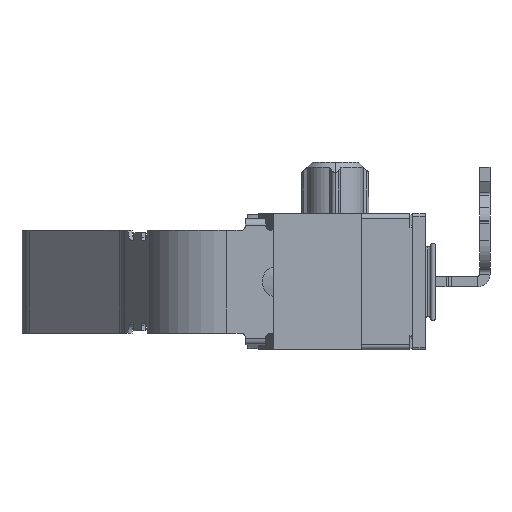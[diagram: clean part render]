
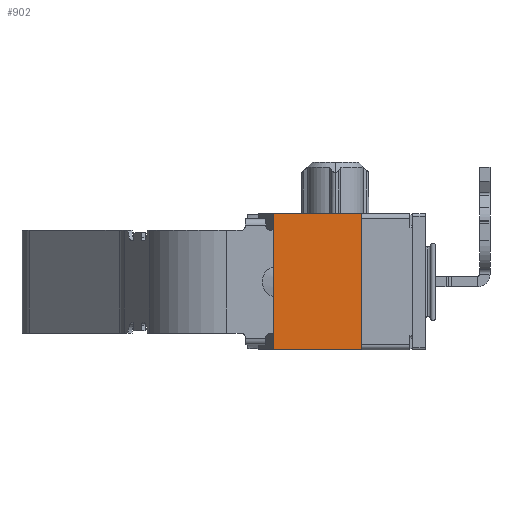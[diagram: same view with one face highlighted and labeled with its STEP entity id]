
A CAD part, left-side view. The second image highlights one B-rep face of the part: STEP entity #902.
In plain terms, the highlighted planar face has unit normal (-1, 0, 0).
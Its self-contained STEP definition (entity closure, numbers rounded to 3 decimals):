
#104 = DIRECTION ( 'NONE',  ( 0., 1., 0. ) ) ;
#162 = DIRECTION ( 'NONE',  ( 0., 0., 1. ) ) ;
#902 = ADVANCED_FACE ( 'NONE', ( #3164 ), #14801, .F. ) ;
#1406 = CARTESIAN_POINT ( 'NONE',  ( -5.593, 8.8, -6.85 ) ) ;
#1554 = DIRECTION ( 'NONE',  ( 1., 0., 0. ) ) ;
#2251 = VERTEX_POINT ( 'NONE', #22673 ) ;
#3164 = FACE_OUTER_BOUND ( 'NONE', #23839, .T. ) ;
#3366 = LINE ( 'NONE', #7582, #23007 ) ;
#5948 = ORIENTED_EDGE ( 'NONE', *, *, #6055, .F. ) ;
#6055 = EDGE_CURVE ( 'NONE', #2251, #20052, #3366, .T. ) ;
#6317 = EDGE_CURVE ( 'NONE', #22021, #24978, #13525, .T. ) ;
#6620 = DIRECTION ( 'NONE',  ( 0., 1., 0. ) ) ;
#6789 = CARTESIAN_POINT ( 'NONE',  ( -5.593, 8.8, -1.55 ) ) ;
#7582 = CARTESIAN_POINT ( 'NONE',  ( -5.593, 8.8, -6.85 ) ) ;
#9140 = CARTESIAN_POINT ( 'NONE',  ( -5.593, 5.375, -1.55 ) ) ;
#10060 = ORIENTED_EDGE ( 'NONE', *, *, #15049, .F. ) ;
#10066 = CARTESIAN_POINT ( 'NONE',  ( -5.593, 5.375, -6.85 ) ) ;
#10409 = VECTOR ( 'NONE', #162, 1000. ) ;
#11319 = ORIENTED_EDGE ( 'NONE', *, *, #23630, .T. ) ;
#11638 = ORIENTED_EDGE ( 'NONE', *, *, #6317, .T. ) ;
#11715 = LINE ( 'NONE', #24710, #20082 ) ;
#12418 = AXIS2_PLACEMENT_3D ( 'NONE', #1406, #1554, #21088 ) ;
#13250 = CARTESIAN_POINT ( 'NONE',  ( -5.593, 5.375, -6.85 ) ) ;
#13525 = LINE ( 'NONE', #13250, #10409 ) ;
#14801 = PLANE ( 'NONE',  #12418 ) ;
#15049 = EDGE_CURVE ( 'NONE', #22021, #2251, #11715, .T. ) ;
#17205 = VECTOR ( 'NONE', #6620, 1000. ) ;
#20052 = VERTEX_POINT ( 'NONE', #6789 ) ;
#20082 = VECTOR ( 'NONE', #104, 1000. ) ;
#20497 = CARTESIAN_POINT ( 'NONE',  ( -5.593, 8.8, -1.55 ) ) ;
#21088 = DIRECTION ( 'NONE',  ( 0., 0., -1. ) ) ;
#22021 = VERTEX_POINT ( 'NONE', #10066 ) ;
#22380 = LINE ( 'NONE', #20497, #17205 ) ;
#22673 = CARTESIAN_POINT ( 'NONE',  ( -5.593, 8.8, -6.85 ) ) ;
#23007 = VECTOR ( 'NONE', #27728, 1000. ) ;
#23630 = EDGE_CURVE ( 'NONE', #24978, #20052, #22380, .T. ) ;
#23839 = EDGE_LOOP ( 'NONE', ( #10060, #11638, #11319, #5948 ) ) ;
#24710 = CARTESIAN_POINT ( 'NONE',  ( -5.593, 8.8, -6.85 ) ) ;
#24978 = VERTEX_POINT ( 'NONE', #9140 ) ;
#27728 = DIRECTION ( 'NONE',  ( 0., 0., 1. ) ) ;
